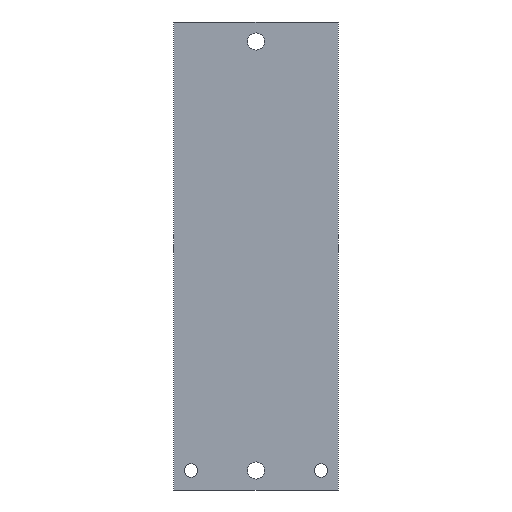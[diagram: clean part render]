
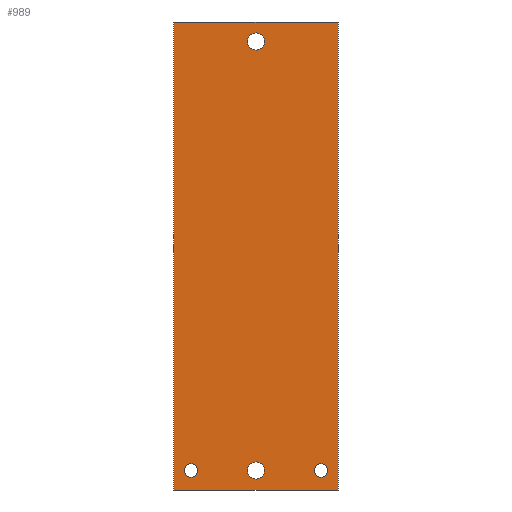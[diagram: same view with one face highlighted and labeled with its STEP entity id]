
A CAD part, front view. The second image highlights one B-rep face of the part: STEP entity #989.
In plain terms, the highlighted planar face has unit normal (0, -1, 0).
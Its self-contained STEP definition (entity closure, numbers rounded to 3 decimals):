
#13=DIRECTION('',(0.,0.,1.));
#14=VECTOR('',#13,180.);
#15=CARTESIAN_POINT('',(31.65,0.,-90.));
#16=LINE('',#15,#14);
#17=DIRECTION('',(-1.,0.,0.));
#18=VECTOR('',#17,63.3);
#19=CARTESIAN_POINT('',(31.65,0.,90.));
#20=LINE('',#19,#18);
#21=DIRECTION('',(-1.,0.,0.));
#22=VECTOR('',#21,63.3);
#23=CARTESIAN_POINT('',(31.65,0.,-90.));
#24=LINE('',#23,#22);
#25=CARTESIAN_POINT('',(0.,0.,-82.5));
#26=DIRECTION('',(0.,1.,0.));
#27=DIRECTION('',(1.,0.,0.));
#28=AXIS2_PLACEMENT_3D('',#25,#26,#27);
#30=CARTESIAN_POINT('',(0.,0.,-82.5));
#31=DIRECTION('',(0.,1.,0.));
#32=DIRECTION('',(-1.,0.,0.));
#33=AXIS2_PLACEMENT_3D('',#30,#31,#32);
#35=CARTESIAN_POINT('',(0.,0.,82.5));
#36=DIRECTION('',(0.,1.,0.));
#37=DIRECTION('',(1.,0.,0.));
#38=AXIS2_PLACEMENT_3D('',#35,#36,#37);
#40=CARTESIAN_POINT('',(0.,0.,82.5));
#41=DIRECTION('',(0.,1.,0.));
#42=DIRECTION('',(-1.,0.,0.));
#43=AXIS2_PLACEMENT_3D('',#40,#41,#42);
#45=CARTESIAN_POINT('',(-25.,0.,-82.5));
#46=DIRECTION('',(0.,-1.,0.));
#47=DIRECTION('',(1.,0.,0.));
#48=AXIS2_PLACEMENT_3D('',#45,#46,#47);
#50=CARTESIAN_POINT('',(-25.,0.,-82.5));
#51=DIRECTION('',(0.,-1.,0.));
#52=DIRECTION('',(-1.,0.,0.));
#53=AXIS2_PLACEMENT_3D('',#50,#51,#52);
#55=CARTESIAN_POINT('',(25.,0.,-82.5));
#56=DIRECTION('',(0.,-1.,0.));
#57=DIRECTION('',(1.,0.,0.));
#58=AXIS2_PLACEMENT_3D('',#55,#56,#57);
#60=CARTESIAN_POINT('',(25.,0.,-82.5));
#61=DIRECTION('',(0.,-1.,0.));
#62=DIRECTION('',(-1.,0.,0.));
#63=AXIS2_PLACEMENT_3D('',#60,#61,#62);
#277=DIRECTION('',(0.,0.,1.));
#278=VECTOR('',#277,180.);
#279=CARTESIAN_POINT('',(-31.65,0.,-90.));
#280=LINE('',#279,#278);
#697=CARTESIAN_POINT('',(31.65,0.,90.));
#699=VERTEX_POINT('',#697);
#703=CARTESIAN_POINT('',(31.65,0.,-90.));
#704=VERTEX_POINT('',#703);
#705=CARTESIAN_POINT('',(-31.65,0.,90.));
#707=VERTEX_POINT('',#705);
#711=CARTESIAN_POINT('',(-31.65,0.,-90.));
#712=VERTEX_POINT('',#711);
#733=CARTESIAN_POINT('',(-22.445,0.,-82.5));
#734=CARTESIAN_POINT('',(-27.555,0.,-82.5));
#735=VERTEX_POINT('',#733);
#736=VERTEX_POINT('',#734);
#741=CARTESIAN_POINT('',(27.555,0.,-82.5));
#742=CARTESIAN_POINT('',(22.445,0.,-82.5));
#743=VERTEX_POINT('',#741);
#744=VERTEX_POINT('',#742);
#757=CARTESIAN_POINT('',(3.3,0.,-82.5));
#758=CARTESIAN_POINT('',(-3.3,0.,-82.5));
#759=VERTEX_POINT('',#757);
#760=VERTEX_POINT('',#758);
#773=CARTESIAN_POINT('',(3.3,0.,82.5));
#774=CARTESIAN_POINT('',(-3.3,0.,82.5));
#775=VERTEX_POINT('',#773);
#776=VERTEX_POINT('',#774);
#952=CARTESIAN_POINT('',(31.65,0.,-90.));
#953=DIRECTION('',(0.,-1.,0.));
#954=DIRECTION('',(0.,0.,1.));
#955=AXIS2_PLACEMENT_3D('',#952,#953,#954);
#956=PLANE('',#955);
#957=ORIENTED_EDGE('',*,*,#932,.F.);
#959=ORIENTED_EDGE('',*,*,#958,.T.);
#961=ORIENTED_EDGE('',*,*,#960,.T.);
#962=ORIENTED_EDGE('',*,*,#943,.F.);
#963=EDGE_LOOP('',(#957,#959,#961,#962));
#964=FACE_OUTER_BOUND('',#963,.F.);
#966=ORIENTED_EDGE('',*,*,#965,.F.);
#968=ORIENTED_EDGE('',*,*,#967,.F.);
#969=EDGE_LOOP('',(#966,#968));
#970=FACE_BOUND('',#969,.F.);
#972=ORIENTED_EDGE('',*,*,#971,.F.);
#974=ORIENTED_EDGE('',*,*,#973,.F.);
#975=EDGE_LOOP('',(#972,#974));
#976=FACE_BOUND('',#975,.F.);
#978=ORIENTED_EDGE('',*,*,#977,.T.);
#980=ORIENTED_EDGE('',*,*,#979,.T.);
#981=EDGE_LOOP('',(#978,#980));
#982=FACE_BOUND('',#981,.F.);
#984=ORIENTED_EDGE('',*,*,#983,.T.);
#986=ORIENTED_EDGE('',*,*,#985,.T.);
#987=EDGE_LOOP('',(#984,#986));
#988=FACE_BOUND('',#987,.F.);
#989=ADVANCED_FACE('',(#964,#970,#976,#982,#988),#956,.T.);
#29=CIRCLE('',#28,3.3);
#34=CIRCLE('',#33,3.3);
#39=CIRCLE('',#38,3.3);
#44=CIRCLE('',#43,3.3);
#49=CIRCLE('',#48,2.555);
#54=CIRCLE('',#53,2.555);
#59=CIRCLE('',#58,2.555);
#64=CIRCLE('',#63,2.555);
#932=EDGE_CURVE('',#704,#699,#16,.T.);
#943=EDGE_CURVE('',#699,#707,#20,.T.);
#958=EDGE_CURVE('',#704,#712,#24,.T.);
#960=EDGE_CURVE('',#712,#707,#280,.T.);
#965=EDGE_CURVE('',#759,#760,#29,.T.);
#967=EDGE_CURVE('',#760,#759,#34,.T.);
#971=EDGE_CURVE('',#775,#776,#39,.T.);
#973=EDGE_CURVE('',#776,#775,#44,.T.);
#977=EDGE_CURVE('',#735,#736,#49,.T.);
#979=EDGE_CURVE('',#736,#735,#54,.T.);
#983=EDGE_CURVE('',#743,#744,#59,.T.);
#985=EDGE_CURVE('',#744,#743,#64,.T.);
